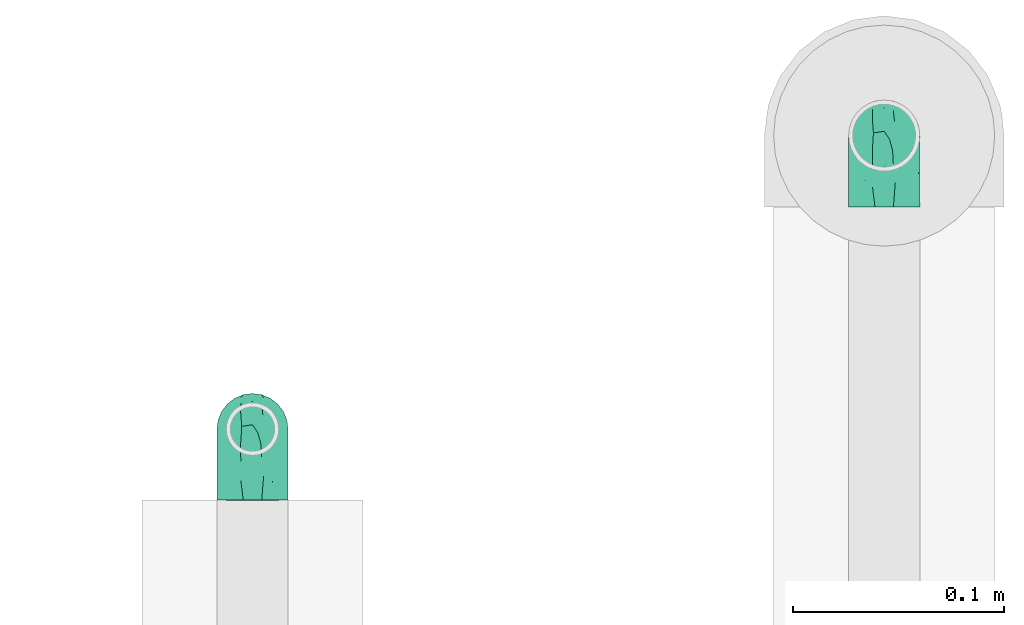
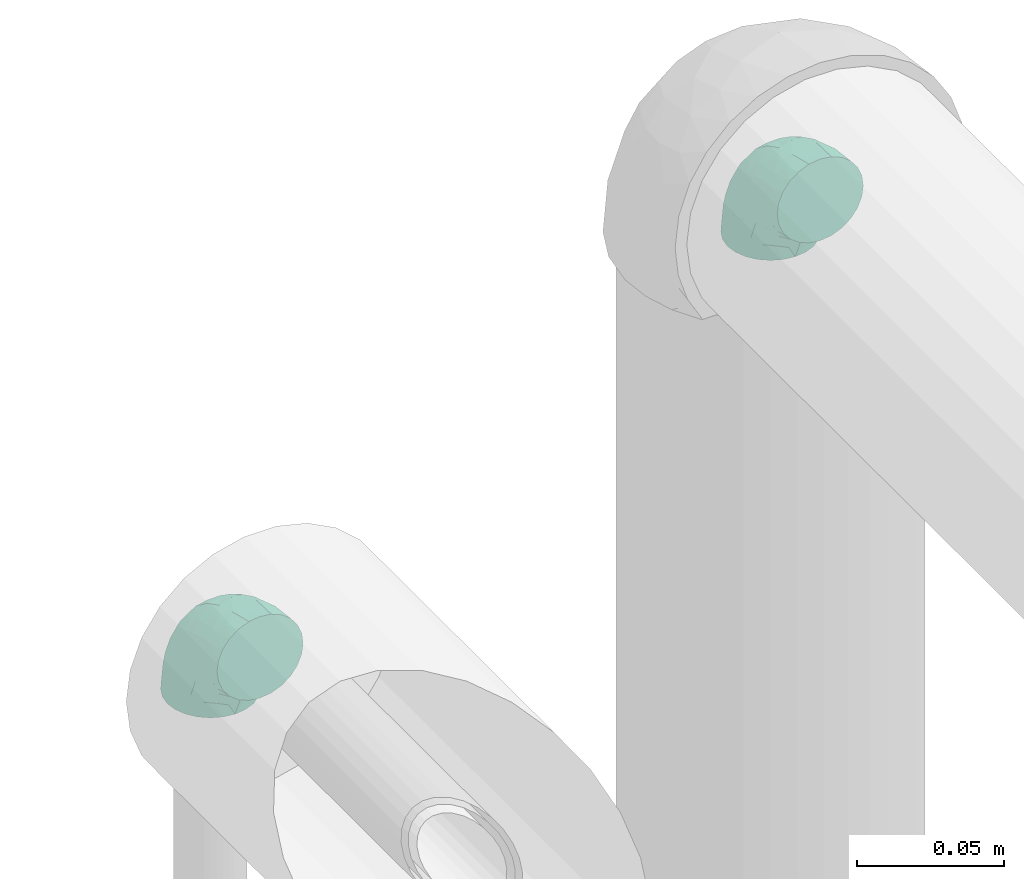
# One storey, part 12 of 17: 2 flow fittings.
"""IFC2X3 building model written with IfcOpenShell, lengths in millimetres."""

from ifc_helpers import new_model, entity, si_unit, converted_unit, derived_unit, direction, frame, origin_with_axes, place, context, subcontext, project, spatial, open_shell, surface_model, source, transform, mapped, type_object, element, save


model = new_model("IFC2X3")

# Units and contexts
model_context = context("Model", 3, precision=0.01, world=frame((0.0, 4.29681676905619e-09, 0.0)), true_north=direction((4.01073788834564e-13, 1.0)))
plan_context = context("Plan", 3, precision=0.01, world=frame((0.0, 4.29681676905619e-09, 0.0)), true_north=direction((4.01073788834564e-13, 1.0)))
body_context = subcontext(model_context, "Body", "Model", "MODEL_VIEW")
ifc_project = project(units=[converted_unit("PLANEANGLEUNIT", "DEGREE", entity("IfcPositiveLengthMeasure", 0.0174532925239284), si_unit("PLANEANGLEUNIT", "RADIAN"), dimensions=[0, 0, 0, 0, 0, 0, 0]), si_unit("AREAUNIT", "SQUARE_METRE"), si_unit("LENGTHUNIT", "METRE", prefix="MILLI"), si_unit("MASSUNIT", "GRAM", prefix="KILO"), si_unit("POWERUNIT", "WATT"), si_unit("PRESSUREUNIT", "PASCAL", prefix="KILO"), si_unit("FORCEUNIT", "NEWTON", prefix="KILO"), si_unit("ELECTRICVOLTAGEUNIT", "VOLT"), si_unit("ELECTRICCURRENTUNIT", "AMPERE"), si_unit("THERMODYNAMICTEMPERATUREUNIT", "DEGREE_CELSIUS"), si_unit("TIMEUNIT", "SECOND"), si_unit("VOLUMEUNIT", "CUBIC_METRE"), derived_unit("LINEARVELOCITYUNIT", [(si_unit("LENGTHUNIT", "METRE"), 1), (si_unit("TIMEUNIT", "SECOND"), -1)]), derived_unit("VOLUMETRICFLOWRATEUNIT", [(si_unit("VOLUMEUNIT", "CUBIC_METRE"), 1), (si_unit("TIMEUNIT", "SECOND"), -1)]), derived_unit("THERMALTRANSMITTANCEUNIT", [(si_unit("POWERUNIT", "WATT"), 1), (si_unit("THERMODYNAMICTEMPERATUREUNIT", "KELVIN"), -1), (si_unit("AREAUNIT", "SQUARE_METRE"), -1)]), derived_unit("SOUNDPRESSUREUNIT", [(si_unit("PRESSUREUNIT", "PASCAL"), 1)])], contexts=[model_context, plan_context])

# Site, building, storey
site_placement = place(None, frame((0.0, -4.29681676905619e-09, 0.0), z_axis=(0.0, 0.0, 1.0), x_axis=(1.0, 0.0, 0.0)))
site = spatial("IfcSite", under=ifc_project, at=site_placement, Name="ENGM", CompositionType="ELEMENT")
building_placement = place(site_placement, frame((0.0, 4.29681676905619e-09, 0.0), z_axis=(0.0, 0.0, 1.0), x_axis=(1.0, 0.0, 0.0)))
building = spatial("IfcBuilding", under=site, at=building_placement, Name="TI", CompositionType="ELEMENT")
storey_placement = place(building_placement, frame((0.0, 0.0, 207370.0), z_axis=(0.0, 0.0, 1.0), x_axis=(1.0, 0.0, 0.0)))
storey = spatial("IfcBuildingStorey", under=building, at=storey_placement, Name="Nivå E", CompositionType="ELEMENT", Elevation=207370.0)

# Flow fittings
pipe_fitting_type = type_object("IfcPipeFittingType", Name="magi_pipe_fe_elbow_short_001", PredefinedType="BEND")
shared_shape = source(origin_with_axes(), body_context, "Body", "SurfaceModel", [
    surface_model("IfcShellBasedSurfaceModel", [(-33.79942, 4.37404, -16.32415), (-33.79942, 0.0, -16.9), (-33.79942, 11.9501, -11.9501), (-33.79942, 8.45, -14.63583), (-33.79942, 16.32415, -4.37404), (-33.79942, 14.63583, -8.45), (-33.79942, -14.63583, -8.45), (-33.79942, -16.32415, -4.37404), (-33.79942, -8.45, 14.63583), (-33.79942, -11.9501, -11.9501), (-33.79942, -8.45, -14.63583), (-33.79942, -4.37404, -16.32415), (-33.79942, -16.9, 0.0), (-33.79942, -16.32415, 4.37404), (-33.79942, 11.9501, 11.9501), (-33.79942, 16.32415, 4.37404), (-33.79942, 14.63583, 8.45), (-33.79942, 4.37404, 16.32415), (-33.79942, 8.45, 14.63583), (-33.79942, -14.63583, 8.45), (-33.79942, -11.9501, 11.9501), (-33.79942, -4.37404, 16.32415), (-33.79942, 0.0, 16.9), (-33.79942, 16.9, 0.0), (16.32473, 33.79913, -4.37404), (16.32473, 33.79913, 4.37404), (16.90058, 33.79912, 0.0), (11.95069, 33.79921, 11.9501), (14.63641, 33.79916, 8.45), (8.45058, 33.79927, 14.63583), (0.00058, 33.79942, 16.9), (4.37463, 33.79934, 16.32415), (-24.79327, -13.12944, 9.48721), (-22.19226, -9.75017, 12.59315), (-24.09849, -14.97039, 0.0), (-14.9387, -10.76253, 8.52971), (-22.46034, -14.7505, 5.27078), (14.75089, 22.46009, 5.27078), (11.9253, 13.23803, 4.33235), (13.04102, 14.39734, 0.0), (7.7141, 13.68777, 11.55892), (9.75055, 22.1921, 12.59315), (4.10199, 13.05664, 14.04021), (-24.83949, -6.39062, 15.20481), (-25.81731, -2.23879, 16.61097), (-23.66498, 2.59054, 16.87119), (-26.50363, 14.06512, 11.08151), (-24.21205, 17.66361, 7.72654), (-29.58462, 15.86956, 7.00282), (-6.17349, -7.5457, 0.0), (-13.23824, -11.92507, 4.33235), (-14.39757, -13.04078, 0.0), (-17.81399, 18.87352, 11.97101), (-4.37346, 33.79949, 16.32415), (-6.30796, 29.15099, 15.82986), (-2.31578, 25.27952, 16.85849), (-29.23874, 10.23435, 13.77051), (-1.45386, -2.8568, 7.61493), (-0.28308, 0.34848, 10.09525), (-5.7445, -4.04716, 10.4123), (-4.41107, 11.31879, 16.59407), (-8.39687, 3.10031, 15.78123), (-1.72609, 9.13037, 15.5309), (-14.63525, 33.79967, 8.45), (-16.32356, 33.7997, 4.37404), (-17.39861, 24.75327, 7.64974), (-26.19172, 20.05117, 0.0), (-28.14463, 17.29656, 4.25858), (-26.05091, 6.62811, 15.96447), (-5.87324, 16.61918, 16.86967), (-12.51772, 12.51793, 16.48935), (-10.06285, 7.38502, 16.81296), (-3.01855, 3.0186, 13.81723), (-13.05671, -4.10176, 14.04021), (-16.82513, -0.15171, 16.38039), (10.76279, 14.93852, 8.52971), (13.12987, 24.79305, 9.48721), (6.39105, 24.83938, 15.20481), (2.23924, 25.81727, 16.61097), (-13.6879, -7.71386, 11.55892), (14.9708, 24.09823, 0.0), (-7.30852, 22.89959, 16.09488), (-10.67913, 26.17378, 14.00799), (-12.7825, 18.26904, 15.06066), (-13.88522, 22.452, 12.93243), (-18.04899, 15.16489, 14.04434), (-23.11606, 20.08173, 4.02985), (-21.84941, 21.84979, 0.0), (-8.44942, 33.79956, 14.63583), (-11.94952, 33.79962, 11.9501), (-18.55764, 25.48268, 3.93063), (-13.95095, 26.94699, 11.03288), (-18.57054, 7.23899, 16.59756), (-16.58297, 4.1412, 16.89279), (-17.96631, 11.46696, 15.6315), (-9.84413, 17.54281, 16.18937), (0.152, 16.82512, 16.38039), (-23.27165, 11.47197, 14.23152), (3.84874, 5.86944, 10.70463), (-8.02063, -7.54409, 7.93282), (1.00377, -2.19519, 4.57453), (5.13261, 3.00987, 5.90174), (5.24121, 1.75312, 2.53273), (8.70483, 7.04865, 3.99114), (-16.89942, 33.79971, 0.0), (-20.05072, 26.19207, 0.0), (8.48611, 8.76689, 7.09222), (-4.5542, -6.72052, 4.90697), (2.05059, -2.05062, 0.0), (7.54581, 6.17336, 0.0), (-26.7535, 2.1369, -16.84499), (-14.63525, 33.79967, -8.45), (-11.94952, 33.79962, -11.9501), (-14.61948, 24.73783, -11.27734), (-28.45219, -13.45334, -9.81896), (-26.00414, 6.63555, -15.96645), (-23.06675, 20.04568, -4.26201), (-13.80616, -4.26524, -14.17871), (-14.6746, -0.2109, -16.07388), (-6.79007, -0.28299, -13.84789), (-24.53539, 11.08094, -14.13415), (-26.71992, 14.00837, -11.05775), (10.09712, 24.44915, -12.75976), (5.83274, 21.40156, -15.03047), (6.66298, 28.54171, -15.38093), (-20.38138, 15.48694, -12.74596), (12.53306, 21.23367, -9.15365), (12.5452, 15.67424, -5.5488), (9.75235, 12.89197, -8.6635), (-15.65143, 19.64199, -13.01325), (-12.03492, 20.66473, -14.67661), (-15.61867, 15.61894, -14.83877), (-25.56493, -15.26208, 0.0), (-24.65395, -15.12934, -5.50956), (13.45384, 28.45196, -9.81896), (15.12976, 24.65369, -5.50956), (-7.3538, -8.31012, -5.65562), (-15.67445, -12.54493, -5.5488), (-24.44933, -10.0967, -12.75976), (0.16528, 0.41255, -9.71734), (-5.70612, -5.33084, -8.89277), (-5.13888, -2.37253, -11.53571), (-21.23389, -12.53269, -9.15365), (0.71168, 7.93821, -14.09385), (0.21115, 14.67459, -16.07388), (3.49319, 14.4272, -14.76382), (-24.89855, -2.13087, -16.591), (-28.54183, -6.66249, -15.38093), (-18.44335, -7.71672, -13.26953), (4.37463, 33.79934, -16.32415), (2.13131, 24.89851, -16.591), (0.00058, 33.79942, -16.9), (-28.64288, 17.44411, -2.89315), (1.70005, -1.28792, -5.09508), (-16.57016, 26.81932, -7.36593), (-17.69007, 27.42605, -3.76404), (-16.32356, 33.7997, -4.37404), (-12.89214, -9.75212, -8.6635), (-5.96581, 5.96592, -15.95817), (-20.53655, 20.09343, -8.28982), (8.45058, 33.79927, -14.63583), (11.95069, 33.79921, -11.9501), (-2.13643, 26.75354, -16.84499), (-4.37346, 33.79949, -16.32415), (-6.89829, 24.58741, -16.02577), (14.63641, 33.79916, -8.45), (-8.44942, 33.79956, -14.63583), (-10.60694, 26.53119, -13.98043), (-21.40166, -5.83237, -15.03047), (2.93218, 5.89579, -11.55914), (6.89418, 12.61784, -11.82236), (5.58065, 5.95252, -8.79451), (-3.99476, 18.61762, -16.89635), (8.31025, 7.35365, -5.65562), (-9.13798, 9.86125, -16.89041), (-9.99952, 16.02085, -16.39699), (-16.68558, 9.78016, -16.34196), (-27.01861, 16.61156, -7.1298), (15.26252, 25.56466, 0.0), (-18.61756, 3.99508, -16.89635), (-19.37441, 27.82475, 0.0), (-12.61796, -6.89397, -11.82236), (-18.84664, 19.14002, -10.96543)], [open_shell([[[0, 1, 2]], [[3, 0, 2]], [[4, 5, 2]], [[6, 2, 1]], [[2, 7, 8]], [[9, 6, 10]], [[1, 11, 10]], [[1, 10, 6]], [[6, 7, 2]], [[12, 13, 7]], [[4, 2, 14]], [[14, 15, 4]], [[16, 15, 14]], [[17, 18, 14]], [[2, 8, 14]], [[17, 14, 8]], [[19, 20, 13]], [[13, 20, 7]], [[21, 22, 8]], [[20, 8, 7]], [[8, 22, 17]], [[23, 4, 15]], [[24, 25, 26]], [[25, 27, 28]], [[24, 27, 25]], [[29, 30, 31]], [[20, 32, 33]], [[13, 12, 34]], [[35, 32, 36]], [[37, 38, 39]], [[32, 20, 19]], [[13, 36, 19]], [[40, 41, 42]], [[33, 8, 20]], [[33, 43, 8]], [[22, 44, 45]], [[46, 47, 48]], [[49, 50, 51]], [[41, 27, 29]], [[46, 52, 47]], [[53, 54, 55]], [[18, 56, 14]], [[21, 44, 22]], [[57, 58, 59]], [[60, 61, 62]], [[14, 46, 16]], [[63, 64, 65]], [[66, 23, 67]], [[48, 15, 16]], [[22, 45, 17]], [[17, 68, 18]], [[69, 70, 71]], [[59, 72, 73]], [[43, 73, 74]], [[75, 76, 41]], [[77, 29, 31]], [[28, 37, 25]], [[31, 30, 78]], [[38, 37, 75]], [[28, 76, 37]], [[79, 73, 33]], [[76, 28, 27]], [[8, 43, 21]], [[37, 39, 80]], [[80, 25, 37]], [[50, 36, 51]], [[81, 69, 55]], [[82, 83, 81]], [[84, 85, 83]], [[66, 86, 87]], [[88, 89, 82]], [[90, 87, 86]], [[52, 65, 47]], [[53, 88, 54]], [[23, 15, 67]], [[82, 81, 54]], [[65, 90, 86]], [[89, 91, 82]], [[55, 30, 53]], [[84, 82, 91]], [[13, 34, 36]], [[77, 41, 29]], [[41, 77, 42]], [[68, 17, 45]], [[92, 93, 71]], [[94, 68, 92]], [[89, 63, 91]], [[81, 83, 95]], [[81, 95, 69]], [[78, 55, 96]], [[56, 46, 14]], [[46, 97, 85]], [[73, 43, 33]], [[51, 36, 34]], [[44, 43, 74]], [[79, 33, 35]], [[73, 72, 61]], [[78, 77, 31]], [[26, 25, 80]], [[96, 62, 42]], [[96, 42, 77]], [[42, 72, 98]], [[99, 59, 79]], [[57, 59, 99]], [[50, 35, 36]], [[57, 100, 101]], [[102, 103, 101]], [[40, 75, 41]], [[36, 32, 19]], [[33, 32, 35]], [[41, 76, 27]], [[37, 76, 75]], [[92, 68, 45]], [[56, 68, 97]], [[15, 48, 67]], [[47, 65, 86]], [[104, 105, 90]], [[90, 105, 87]], [[63, 65, 91]], [[52, 91, 65]], [[84, 83, 82]], [[94, 85, 97]], [[92, 71, 70]], [[96, 55, 69]], [[61, 71, 74]], [[69, 71, 60]], [[55, 78, 30]], [[77, 78, 96]], [[43, 44, 21]], [[45, 44, 74]], [[58, 72, 59]], [[98, 101, 106]], [[92, 45, 93]], [[94, 92, 70]], [[83, 94, 70]], [[68, 94, 97]], [[83, 85, 94]], [[46, 85, 52]], [[45, 74, 93]], [[74, 71, 93]], [[73, 61, 74]], [[62, 61, 72]], [[42, 62, 72]], [[60, 62, 96]], [[69, 60, 96]], [[61, 60, 71]], [[68, 56, 18]], [[46, 56, 97]], [[82, 54, 88]], [[55, 54, 81]], [[46, 48, 16]], [[67, 47, 86]], [[47, 67, 48]], [[67, 86, 66]], [[50, 49, 107]], [[99, 50, 107]], [[101, 103, 106]], [[108, 107, 49]], [[99, 79, 35]], [[101, 100, 102]], [[109, 39, 38]], [[59, 73, 79]], [[42, 98, 40]], [[106, 40, 98]], [[50, 99, 35]], [[57, 99, 107]], [[100, 57, 107]], [[58, 101, 98]], [[107, 108, 100]], [[102, 100, 108]], [[108, 109, 102]], [[103, 109, 38]], [[109, 103, 102]], [[106, 38, 75]], [[38, 106, 103]], [[106, 75, 40]], [[101, 58, 57]], [[72, 58, 98]], [[65, 64, 90]], [[104, 90, 64]], [[91, 52, 84]], [[84, 52, 85]], [[83, 70, 95]], [[69, 95, 70]], [[0, 110, 1]], [[111, 112, 113]], [[9, 114, 6]], [[3, 115, 0]], [[87, 116, 66]], [[117, 118, 119]], [[120, 2, 121]], [[122, 123, 124]], [[120, 121, 125]], [[126, 127, 128]], [[129, 130, 131]], [[120, 3, 2]], [[51, 132, 133]], [[126, 134, 135]], [[133, 7, 6]], [[136, 49, 137]], [[138, 9, 10]], [[139, 140, 141]], [[137, 133, 142]], [[143, 144, 145]], [[146, 11, 1]], [[10, 147, 138]], [[142, 138, 148]], [[147, 10, 11]], [[135, 127, 126]], [[149, 150, 151]], [[23, 66, 152]], [[140, 153, 136]], [[154, 155, 156]], [[137, 157, 136]], [[158, 144, 143]], [[156, 111, 154]], [[113, 159, 154]], [[160, 161, 122]], [[151, 162, 163]], [[163, 162, 164]], [[134, 161, 165]], [[112, 166, 167]], [[116, 155, 159]], [[150, 149, 124]], [[147, 146, 168]], [[115, 3, 120]], [[169, 170, 171]], [[172, 150, 144]], [[163, 164, 166]], [[124, 149, 160]], [[134, 122, 161]], [[168, 146, 118]], [[128, 127, 173]], [[125, 129, 131]], [[2, 5, 121]], [[170, 123, 122]], [[165, 24, 135]], [[172, 174, 175]], [[176, 115, 120]], [[152, 177, 4]], [[127, 39, 109]], [[167, 166, 164]], [[175, 164, 172]], [[129, 167, 130]], [[114, 133, 6]], [[132, 12, 7]], [[24, 26, 178]], [[170, 122, 126]], [[144, 150, 123]], [[162, 150, 172]], [[145, 170, 143]], [[144, 158, 174]], [[168, 117, 148]], [[114, 138, 142]], [[110, 146, 1]], [[179, 174, 118]], [[179, 118, 146]], [[118, 158, 119]], [[157, 137, 142]], [[132, 7, 133]], [[24, 178, 135]], [[39, 135, 178]], [[177, 121, 5]], [[120, 125, 131]], [[176, 120, 131]], [[110, 115, 179]], [[113, 154, 111]], [[155, 87, 180]], [[164, 175, 130]], [[113, 112, 167]], [[155, 104, 156]], [[66, 116, 152]], [[116, 159, 177]], [[155, 116, 87]], [[128, 171, 170]], [[119, 158, 143]], [[139, 171, 153]], [[140, 136, 157]], [[119, 143, 169]], [[119, 181, 117]], [[121, 177, 159]], [[5, 4, 177]], [[153, 49, 136]], [[51, 133, 137]], [[135, 39, 127]], [[127, 109, 173]], [[115, 110, 0]], [[146, 110, 179]], [[150, 162, 151]], [[164, 162, 172]], [[172, 144, 174]], [[176, 131, 175]], [[118, 174, 158]], [[176, 174, 179]], [[174, 176, 175]], [[115, 176, 179]], [[142, 181, 157]], [[119, 141, 181]], [[181, 140, 157]], [[153, 140, 139]], [[171, 128, 173]], [[170, 126, 128]], [[153, 171, 173]], [[171, 139, 169]], [[169, 139, 141]], [[143, 170, 169]], [[159, 182, 121]], [[182, 113, 129]], [[181, 141, 140]], [[169, 141, 119]], [[182, 129, 125]], [[167, 129, 113]], [[164, 130, 167]], [[175, 131, 130]], [[121, 182, 125]], [[113, 182, 159]], [[155, 154, 159]], [[104, 155, 180]], [[177, 152, 116]], [[23, 152, 4]], [[122, 124, 160]], [[150, 124, 123]], [[135, 134, 165]], [[122, 134, 126]], [[146, 147, 11]], [[138, 147, 168]], [[138, 114, 9]], [[133, 114, 142]], [[144, 123, 145]], [[153, 109, 108]], [[51, 137, 49]], [[170, 145, 123]], [[109, 153, 173]], [[153, 108, 49]], [[148, 117, 181]], [[118, 117, 168]], [[142, 148, 181]], [[168, 148, 138]], [[112, 151, 163]], [[112, 163, 166]], [[160, 112, 111]], [[112, 160, 151]], [[111, 27, 24]], [[160, 165, 161]], [[160, 149, 151]], [[111, 165, 160]], [[24, 165, 111]], [[111, 156, 27]], [[104, 64, 63]], [[29, 104, 63]], [[89, 88, 53]], [[63, 89, 29]], [[53, 29, 89]], [[27, 104, 29]], [[53, 30, 29]], [[27, 156, 104]]])]),
])
for number, where, z_axis, x_axis, name in (
    (1, (598969.96633, 574054.33025, 2946.86762), (1.0, 0.0, 0.0), (0.0, 0.0, 1.0), "magi_pipe_fe_elbow_short_001"),
    (2, (598669.97776, 573914.96996, 2946.87002999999), (1.0, 0.0, 0.0), (0.0, 0.0, 1.0), "magi_pipe_fe_elbow_short_001"),
):
    element("IfcFlowFitting", number, at=place(storey_placement, frame(where, z_axis=z_axis, x_axis=x_axis)), inside=storey, type_object=pipe_fitting_type, Name=name, context=body_context, shape_type="MappedRepresentation", body=[
        mapped(shared_shape, transform((0.0, 0.0, 0.0), scale=1.0)),
    ])

save(model, "model.ifc")
